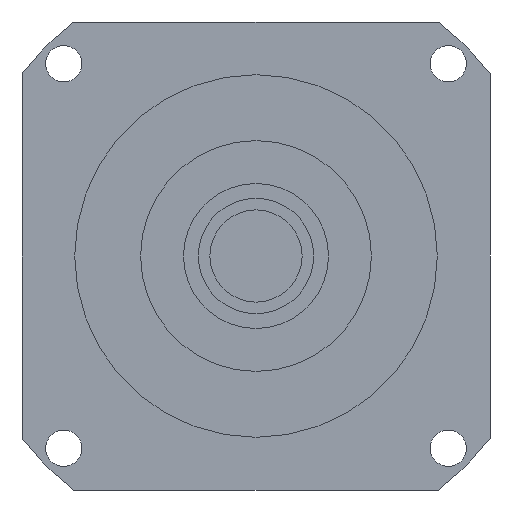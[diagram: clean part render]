
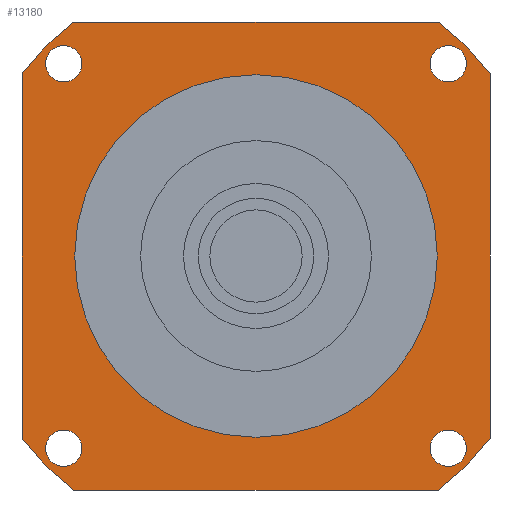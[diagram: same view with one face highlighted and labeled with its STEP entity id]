
A CAD part, left-side view. The second image highlights one B-rep face of the part: STEP entity #13180.
In plain terms, the highlighted planar face has unit normal (-1, 0, 0) as drawn and (0, 0, -1) by its records, which use the part's own axes.
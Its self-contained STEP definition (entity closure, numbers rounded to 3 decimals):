
#10190=CARTESIAN_POINT('',(-55.308,71.,-84.7));
#10200=VERTEX_POINT('',#10190);
#10380=CARTESIAN_POINT('',(-71.,55.308,-84.7));
#10390=VERTEX_POINT('',#10380);
#10420=CARTESIAN_POINT('',(0.,0.,
-84.7));
#10430=DIRECTION('',(0.,0.,-1.));
#10440=DIRECTION('',(1.,0.,0.));
#10450=AXIS2_PLACEMENT_3D('',#10420,#10430,#10440);
#10460=CIRCLE('',#10450,90.);
#10470=EDGE_CURVE('',#10390,#10200,#10460,.T.);
#11590=CARTESIAN_POINT('',(55.,0.,-84.7));
#11600=VERTEX_POINT('',#11590);
#11630=CARTESIAN_POINT('',(0.,0.,
-84.7));
#11640=DIRECTION('',(0.,0.,1.));
#11650=DIRECTION('',(0.,1.,0.));
#11660=AXIS2_PLACEMENT_3D('',#11630,#11640,#11650);
#11670=CIRCLE('',#11660,55.);
#11680=CARTESIAN_POINT('',(0.,55.,-84.7));
#11690=VERTEX_POINT('',#11680);
#11700=EDGE_CURVE('',#11600,#11690,#11670,.T.);
#11720=CARTESIAN_POINT('',(-55.,0.,-84.7));
#11730=VERTEX_POINT('',#11720);
#11740=EDGE_CURVE('',#11690,#11730,#11670,.T.);
#11870=CARTESIAN_POINT('',(71.,71.,-84.7));
#11880=DIRECTION('',(0.,0.,-1.));
#11890=DIRECTION('',(1.,0.,0.));
#11900=AXIS2_PLACEMENT_3D('',#11870,#11880,#11890);
#11910=PLANE('',#11900);
#11920=CARTESIAN_POINT('',(-58.336,-58.336,-84.7));
#11930=DIRECTION('',(0.,0.,-1.));
#11940=DIRECTION('',(0.,-1.,0.));
#11950=AXIS2_PLACEMENT_3D('',#11920,#11930,#11940);
#11960=CIRCLE('',#11950,5.5);
#11970=CARTESIAN_POINT('',(-58.336,-63.836,-84.7));
#11980=VERTEX_POINT('',#11970);
#11990=CARTESIAN_POINT('',(-58.336,-52.836,-84.7));
#12000=VERTEX_POINT('',#11990);
#12010=EDGE_CURVE('',#11980,#12000,#11960,.T.);
#12020=ORIENTED_EDGE('',*,*,#12010,.F.);
#12030=EDGE_CURVE('',#12000,#11980,#11960,.T.);
#12040=ORIENTED_EDGE('',*,*,#12030,.F.);
#12050=EDGE_LOOP('',(#12040,#12020));
#12060=FACE_BOUND('',#12050,.T.);
#12070=CARTESIAN_POINT('',(-58.336,58.336,-84.7));
#12080=DIRECTION('',(0.,0.,-1.));
#12090=DIRECTION('',(-1.,0.,0.));
#12100=AXIS2_PLACEMENT_3D('',#12070,#12080,#12090);
#12110=CIRCLE('',#12100,5.5);
#12120=CARTESIAN_POINT('',(-63.836,58.336,-84.7));
#12130=VERTEX_POINT('',#12120);
#12140=CARTESIAN_POINT('',(-52.836,58.336,-84.7));
#12150=VERTEX_POINT('',#12140);
#12160=EDGE_CURVE('',#12130,#12150,#12110,.T.);
#12170=ORIENTED_EDGE('',*,*,#12160,.F.);
#12180=EDGE_CURVE('',#12150,#12130,#12110,.T.);
#12190=ORIENTED_EDGE('',*,*,#12180,.F.);
#12200=EDGE_LOOP('',(#12190,#12170));
#12210=FACE_BOUND('',#12200,.T.);
#12220=CARTESIAN_POINT('',(58.336,58.336,-84.7));
#12230=DIRECTION('',(0.,0.,-1.));
#12240=DIRECTION('',(0.,1.,0.));
#12250=AXIS2_PLACEMENT_3D('',#12220,#12230,#12240);
#12260=CIRCLE('',#12250,5.5);
#12270=CARTESIAN_POINT('',(58.336,63.836,-84.7));
#12280=VERTEX_POINT('',#12270);
#12290=CARTESIAN_POINT('',(58.336,52.836,-84.7));
#12300=VERTEX_POINT('',#12290);
#12310=EDGE_CURVE('',#12280,#12300,#12260,.T.);
#12320=ORIENTED_EDGE('',*,*,#12310,.F.);
#12330=EDGE_CURVE('',#12300,#12280,#12260,.T.);
#12340=ORIENTED_EDGE('',*,*,#12330,.F.);
#12350=EDGE_LOOP('',(#12340,#12320));
#12360=FACE_BOUND('',#12350,.T.);
#12370=EDGE_CURVE('',#11730,#11600,#11670,.T.);
#12380=ORIENTED_EDGE('',*,*,#12370,.T.);
#12390=ORIENTED_EDGE('',*,*,#11740,.T.);
#12400=ORIENTED_EDGE('',*,*,#11700,.T.);
#12410=EDGE_LOOP('',(#12400,#12390,#12380));
#12420=FACE_BOUND('',#12410,.T.);
#12430=CARTESIAN_POINT('',(-71.,71.,-84.7));
#12440=DIRECTION('',(1.,0.,0.));
#12450=VECTOR('',#12440,1000.);
#12460=LINE('',#12430,#12450);
#12470=CARTESIAN_POINT('',(55.308,71.,-84.7));
#12480=VERTEX_POINT('',#12470);
#12490=EDGE_CURVE('',#10200,#12480,#12460,.T.);
#12500=ORIENTED_EDGE('',*,*,#12490,.T.);
#12510=ORIENTED_EDGE('',*,*,#10470,.T.);
#12520=CARTESIAN_POINT('',(-71.,-71.,-84.7));
#12530=DIRECTION('',(0.,1.,0.));
#12540=VECTOR('',#12530,1000.);
#12550=LINE('',#12520,#12540);
#12560=CARTESIAN_POINT('',(-71.,-55.308,-84.7));
#12570=VERTEX_POINT('',#12560);
#12580=EDGE_CURVE('',#12570,#10390,#12550,.T.);
#12590=ORIENTED_EDGE('',*,*,#12580,.T.);
#12600=CARTESIAN_POINT('',(0.,0.,
-84.7));
#12610=DIRECTION('',(0.,0.,-1.));
#12620=DIRECTION('',(1.,0.,0.));
#12630=AXIS2_PLACEMENT_3D('',#12600,#12610,#12620);
#12640=CIRCLE('',#12630,90.);
#12650=CARTESIAN_POINT('',(-55.308,-71.,-84.7));
#12660=VERTEX_POINT('',#12650);
#12670=EDGE_CURVE('',#12660,#12570,#12640,.T.);
#12680=ORIENTED_EDGE('',*,*,#12670,.T.);
#12690=CARTESIAN_POINT('',(71.,-71.,-84.7));
#12700=DIRECTION('',(-1.,0.,0.));
#12710=VECTOR('',#12700,1000.);
#12720=LINE('',#12690,#12710);
#12730=CARTESIAN_POINT('',(55.308,-71.,-84.7));
#12740=VERTEX_POINT('',#12730);
#12750=EDGE_CURVE('',#12740,#12660,#12720,.T.);
#12760=ORIENTED_EDGE('',*,*,#12750,.T.);
#12770=CARTESIAN_POINT('',(0.,0.,
-84.7));
#12780=DIRECTION('',(0.,0.,-1.));
#12790=DIRECTION('',(1.,0.,0.));
#12800=AXIS2_PLACEMENT_3D('',#12770,#12780,#12790);
#12810=CIRCLE('',#12800,90.);
#12820=CARTESIAN_POINT('',(71.,-55.308,-84.7));
#12830=VERTEX_POINT('',#12820);
#12840=EDGE_CURVE('',#12830,#12740,#12810,.T.);
#12850=ORIENTED_EDGE('',*,*,#12840,.T.);
#12860=CARTESIAN_POINT('',(71.,71.,-84.7));
#12870=DIRECTION('',(0.,-1.,0.));
#12880=VECTOR('',#12870,1000.);
#12890=LINE('',#12860,#12880);
#12900=CARTESIAN_POINT('',(71.,55.308,-84.7));
#12910=VERTEX_POINT('',#12900);
#12920=EDGE_CURVE('',#12910,#12830,#12890,.T.);
#12930=ORIENTED_EDGE('',*,*,#12920,.T.);
#12940=CARTESIAN_POINT('',(0.,0.,
-84.7));
#12950=DIRECTION('',(0.,0.,-1.));
#12960=DIRECTION('',(1.,0.,0.));
#12970=AXIS2_PLACEMENT_3D('',#12940,#12950,#12960);
#12980=CIRCLE('',#12970,90.);
#12990=EDGE_CURVE('',#12480,#12910,#12980,.T.);
#13000=ORIENTED_EDGE('',*,*,#12990,.T.);
#13010=EDGE_LOOP('',(#13000,#12930,#12850,#12760,#12680,#12590,#12510,
#12500));
#13020=FACE_OUTER_BOUND('',#13010,.T.);
#13030=CARTESIAN_POINT('',(58.336,-58.336,-84.7));
#13040=DIRECTION('',(0.,0.,-1.));
#13050=DIRECTION('',(1.,0.,0.));
#13060=AXIS2_PLACEMENT_3D('',#13030,#13040,#13050);
#13070=CIRCLE('',#13060,5.5);
#13080=CARTESIAN_POINT('',(63.836,-58.336,-84.7));
#13090=VERTEX_POINT('',#13080);
#13100=CARTESIAN_POINT('',(52.836,-58.336,-84.7));
#13110=VERTEX_POINT('',#13100);
#13120=EDGE_CURVE('',#13090,#13110,#13070,.T.);
#13130=ORIENTED_EDGE('',*,*,#13120,.F.);
#13140=EDGE_CURVE('',#13110,#13090,#13070,.T.);
#13150=ORIENTED_EDGE('',*,*,#13140,.F.);
#13160=EDGE_LOOP('',(#13150,#13130));
#13170=FACE_BOUND('',#13160,.T.);
#13180=ADVANCED_FACE('',(#12060,#12210,#12360,#12420,#13020,#13170),
#11910,.T.);
